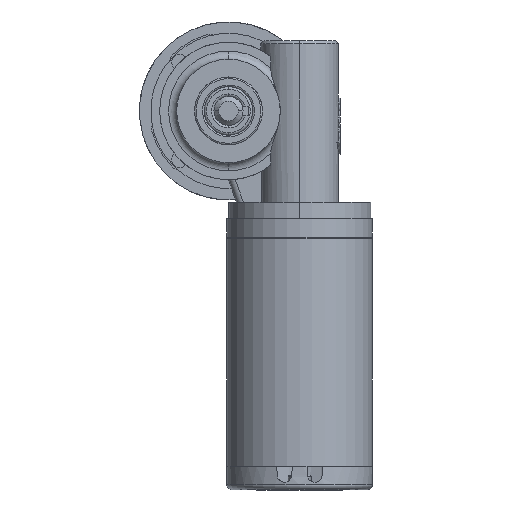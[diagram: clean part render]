
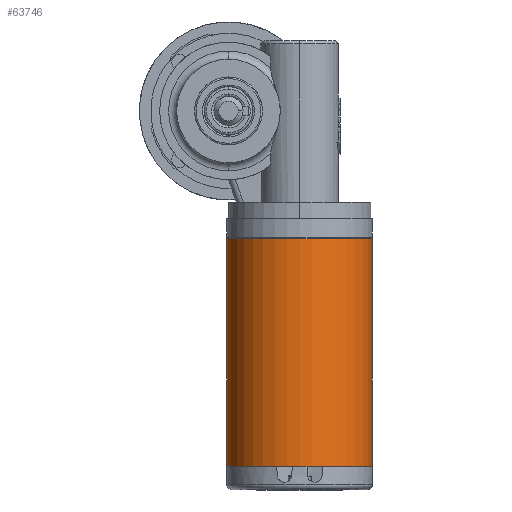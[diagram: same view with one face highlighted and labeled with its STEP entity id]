
A CAD part, front view. The second image highlights one B-rep face of the part: STEP entity #63746.
In plain terms, the highlighted cylindrical face has radius 45 mm (diameter 90 mm), a partial arc.
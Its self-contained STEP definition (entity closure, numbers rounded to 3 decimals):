
#62044=CARTESIAN_POINT('',(0.,-149.15,0.));
#62045=DIRECTION('',(0.,-1.,0.));
#62046=DIRECTION('',(1.,0.,0.));
#62047=AXIS2_PLACEMENT_3D('',#62044,#62045,#62046);
#62064=DIRECTION('',(0.,1.,0.));
#62065=VECTOR('',#62064,140.5);
#62066=CARTESIAN_POINT('',(-45.,-289.65,0.));
#62067=LINE('',#62066,#62065);
#62068=DIRECTION('',(0.,1.,0.));
#62069=VECTOR('',#62068,140.5);
#62070=CARTESIAN_POINT('',(45.,-289.65,0.));
#62071=LINE('',#62070,#62069);
#62072=CARTESIAN_POINT('',(0.,-289.65,0.));
#62073=DIRECTION('',(0.,1.,0.));
#62074=DIRECTION('',(-1.,0.,0.));
#62075=AXIS2_PLACEMENT_3D('',#62072,#62073,#62074);
#63312=CARTESIAN_POINT('',(45.,-149.15,0.));
#63313=CARTESIAN_POINT('',(-45.,-149.15,0.));
#63314=VERTEX_POINT('',#63312);
#63315=VERTEX_POINT('',#63313);
#63320=CARTESIAN_POINT('',(45.,-289.65,0.));
#63321=VERTEX_POINT('',#63320);
#63322=CARTESIAN_POINT('',(-45.,-289.65,0.));
#63323=VERTEX_POINT('',#63322);
#63732=CARTESIAN_POINT('',(0.,-289.65,0.));
#63733=DIRECTION('',(0.,-1.,0.));
#63734=DIRECTION('',(1.,0.,0.));
#63735=AXIS2_PLACEMENT_3D('',#63732,#63733,#63734);
#63736=CYLINDRICAL_SURFACE('',#63735,45.);
#63737=ORIENTED_EDGE('',*,*,#63719,.F.);
#63739=ORIENTED_EDGE('',*,*,#63738,.F.);
#63741=ORIENTED_EDGE('',*,*,#63740,.F.);
#63743=ORIENTED_EDGE('',*,*,#63742,.T.);
#63744=EDGE_LOOP('',(#63737,#63739,#63741,#63743));
#63745=FACE_OUTER_BOUND('',#63744,.F.);
#63746=ADVANCED_FACE('',(#63745),#63736,.T.);
#62048=CIRCLE('',#62047,45.);
#62076=CIRCLE('',#62075,45.);
#63719=EDGE_CURVE('',#63314,#63315,#62048,.T.);
#63738=EDGE_CURVE('',#63321,#63314,#62071,.T.);
#63740=EDGE_CURVE('',#63323,#63321,#62076,.T.);
#63742=EDGE_CURVE('',#63323,#63315,#62067,.T.);
